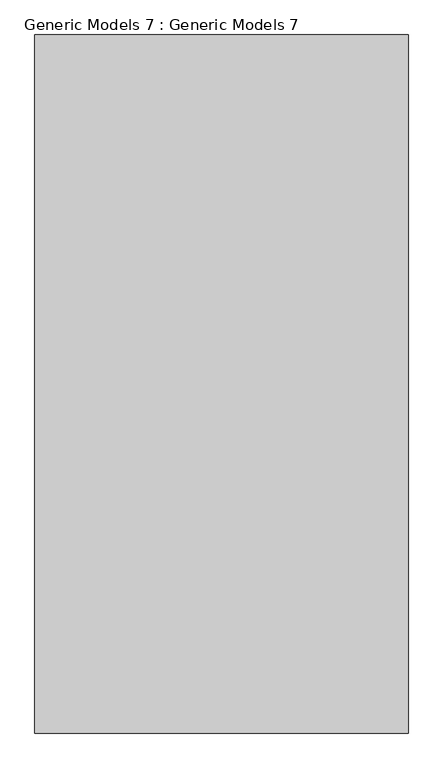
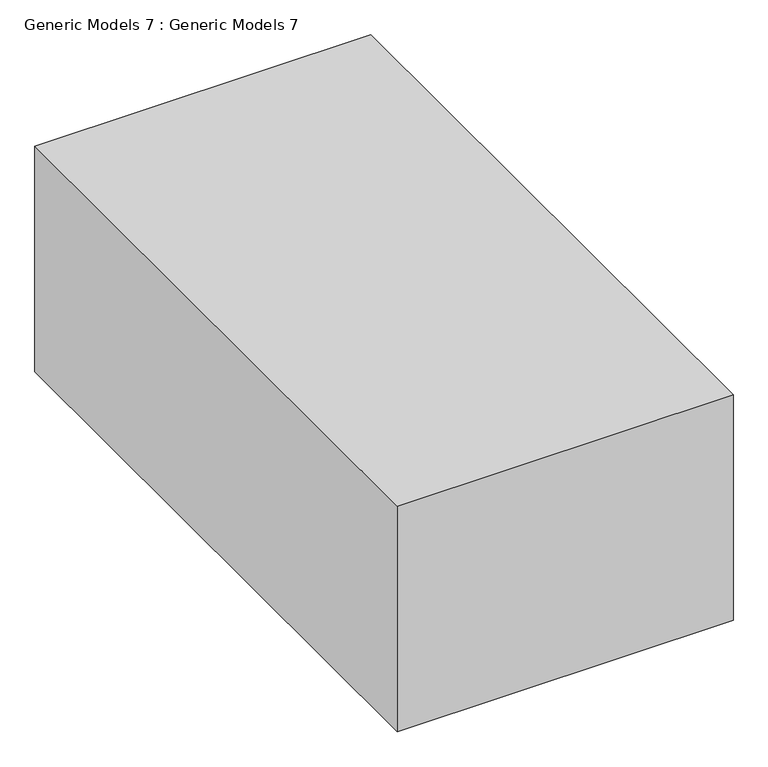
"""IFC4 building model written with IfcOpenShell, lengths in millimetres: proxy geometry, Generic Models 7 : Generic Models 7."""

import ifcopenshell
import ifcopenshell.guid

model = None  # the IFC model being written
_history = None  # IfcOwnerHistory: only IFC2X3 demands one
_inside = {}  # id of a spatial element -> (the spatial element, [elements in it])
_under = {}  # id of a project, library or spatial element -> (it, [spatial elements below it])
_declared = {}  # id of a project -> (the project, [libraries it declares])
_typed = {}  # id of a type object -> (the type object, [elements of that type])
_made_of = {}  # id of a material, layer set ... -> (it, [elements and type objects made of it])


def new_model(schema):
    """Start an empty IFC model of exactly this schema.

    Asked for "IFC4X3", IfcOpenShell would pick the latest addendum, in which some entities
    have other attributes; the version numbers below select the first issue.
    IFC2X3 requires an IfcOwnerHistory on every rooted entity: one is made here for all.
    """
    global model, _history
    if schema == "IFC4X3":
        model = ifcopenshell.file(schema_version=(4, 3, 0, 0))
    else:
        model = ifcopenshell.file(schema=schema)
    _inside.clear()
    _under.clear()
    _declared.clear()
    _typed.clear()
    _made_of.clear()
    _history = None
    if model.schema == "IFC2X3":
        org = make("IfcOrganization", Name="unknown")
        user = make(
            "IfcPersonAndOrganization",
            ThePerson=make("IfcPerson", FamilyName="unknown"),
            TheOrganization=org,
        )
        app = make(
            "IfcApplication",
            ApplicationDeveloper=org,
            Version="unknown",
            ApplicationFullName="unknown",
            ApplicationIdentifier="unknown",
        )
        _history = make(
            "IfcOwnerHistory",
            OwningUser=user,
            OwningApplication=app,
            ChangeAction="ADDED",
            CreationDate=0,
        )
    return model


def make(cls, **values):
    """One entity of the class cls with the attributes given. An attribute that is None is left unset."""
    return model.create_entity(
        cls, **{name: value for name, value in values.items() if value is not None}
    )


def rooted(cls, **values):
    """An entity with a GlobalId (a new one), such as an element, a storey or a relation."""
    return make(cls, GlobalId=ifcopenshell.guid.new(), OwnerHistory=_history, **values)


def si_unit(unit_type, name, prefix=None):
    """IfcSIUnit, for example si_unit("LENGTHUNIT", "METRE", prefix="MILLI")."""
    return make("IfcSIUnit", UnitType=unit_type, Prefix=prefix, Name=name)


def assignment(units):
    """IfcUnitAssignment: the units of a project."""
    return None if units is None else make("IfcUnitAssignment", Units=units)


def point(xyz):
    """IfcCartesianPoint."""
    return None if xyz is None else make("IfcCartesianPoint", Coordinates=xyz)


def direction(xyz):
    """IfcDirection."""
    return None if xyz is None else make("IfcDirection", DirectionRatios=xyz)


def frame(location, z_axis=None, x_axis=None):
    """IfcAxis2Placement3D, a coordinate frame: its origin and axes. An axis left out is left unset."""
    return make(
        "IfcAxis2Placement3D",
        Location=point(location),
        Axis=direction(z_axis),
        RefDirection=direction(x_axis),
    )


def origin():
    """The frame at (0, 0, 0) with its axes left unset."""
    return frame((0.0, 0.0, 0.0))


def origin_with_axes():
    """The frame at (0, 0, 0) with the z axis (0, 0, 1) and the x axis (1, 0, 0) written out."""
    return frame((0.0, 0.0, 0.0), z_axis=(0.0, 0.0, 1.0), x_axis=(1.0, 0.0, 0.0))


def place(relative_to, where):
    """IfcLocalPlacement: puts the frame where relative to a parent placement (None: the world)."""
    return make(
        "IfcLocalPlacement", PlacementRelTo=relative_to, RelativePlacement=where
    )


def context(
    kind, dimensions, precision=None, world=None, true_north=None, identifier=None
):
    """IfcGeometricRepresentationContext, for example the 3D "Model" context."""
    return make(
        "IfcGeometricRepresentationContext",
        ContextIdentifier=identifier,
        ContextType=kind,
        CoordinateSpaceDimension=dimensions,
        Precision=precision,
        WorldCoordinateSystem=world,
        TrueNorth=true_north,
    )


def project(units=None, contexts=None):
    """IfcProject with its units and contexts."""
    return rooted(
        "IfcProject",
        Name="project",
        RepresentationContexts=contexts,
        UnitsInContext=assignment(units),
    )


def spatial(cls, under=None, at=None, **own):
    """A site, building, storey or space (cls), placed at a placement, below another one or the project."""
    s = rooted(cls, ObjectPlacement=at, **own)
    if under is not None:
        _under.setdefault(under.id(), (under, []))[1].append(s)
    return s


def polyline(points):
    """IfcPolyline through the points."""
    return make("IfcPolyline", Points=[point(p) for p in points])


def outline(outer, holes=None, kind="AREA"):
    """IfcArbitraryClosedProfileDef: a profile drawn as a closed curve; with holes, ...WithVoids."""
    if holes is None:
        return make("IfcArbitraryClosedProfileDef", ProfileType=kind, OuterCurve=outer)
    return make(
        "IfcArbitraryProfileDefWithVoids",
        ProfileType=kind,
        OuterCurve=outer,
        InnerCurves=holes,
    )


def extrude(swept, where, along, depth):
    """IfcExtrudedAreaSolid: the profile swept, set in the frame where, extruded along a direction by depth."""
    return make(
        "IfcExtrudedAreaSolid",
        SweptArea=swept,
        Position=where,
        ExtrudedDirection=direction(along),
        Depth=depth,
    )


def shape(context_of_items, identifier, shape_type, items):
    """IfcShapeRepresentation: the items that make up one representation, for example the "Body"."""
    return make(
        "IfcShapeRepresentation",
        ContextOfItems=context_of_items,
        RepresentationIdentifier=identifier,
        RepresentationType=shape_type,
        Items=items,
    )


def source(mapping_origin, context_of_items, identifier, shape_type, items):
    """IfcRepresentationMap: a shape defined once, which mapped items show again and again."""
    return make(
        "IfcRepresentationMap",
        MappingOrigin=mapping_origin,
        MappedRepresentation=shape(context_of_items, identifier, shape_type, items),
    )


def transform(
    local_origin,
    x_axis=None,
    y_axis=None,
    z_axis=None,
    scale=None,
    scale2=None,
    scale3=None,
    uniform=True,
):
    """IfcCartesianTransformationOperator3D, or its non-uniform kind. x_axis, y_axis, z_axis: its Axis1, 2, 3."""
    if uniform:
        return make(
            "IfcCartesianTransformationOperator3D",
            Axis1=direction(x_axis),
            Axis2=direction(y_axis),
            LocalOrigin=point(local_origin),
            Scale=scale,
            Axis3=direction(z_axis),
        )
    return make(
        "IfcCartesianTransformationOperator3DnonUniform",
        Axis1=direction(x_axis),
        Axis2=direction(y_axis),
        LocalOrigin=point(local_origin),
        Scale=scale,
        Axis3=direction(z_axis),
        Scale2=scale2,
        Scale3=scale3,
    )


def mapped(mapping_source, mapping_target):
    """IfcMappedItem: shows the shape of a source again, moved by a transform."""
    return make(
        "IfcMappedItem", MappingSource=mapping_source, MappingTarget=mapping_target
    )


def made_of(thing, what):
    """Note that an element or type object is made of a material, layer set ...; save() writes the relation."""
    if what is not None:
        _made_of.setdefault(what.id(), (what, []))[1].append(thing)
    return thing


def element(
    cls,
    number,
    at=None,
    inside=None,
    cuts=None,
    type_object=None,
    material=None,
    context=None,
    identifier="Body",
    shape_type=None,
    held_by="IfcProductDefinitionShape",
    body=None,
    shapes=None,
    **own,
):
    """One element of the class cls, such as IfcWall. Its Tag is "e" and its number.

    at: its placement. inside: the storey or other place that contains it. cuts: it is an
    opening in that element (IfcRelVoidsElement). A single representation is given by context,
    identifier, shape_type and body (its items); several are given by shapes. held_by: the class
    of the entity that holds the representations. save() writes the other relations.
    """
    e = rooted(cls, Tag="e%d" % number, ObjectPlacement=at, **own)
    if body is not None:
        shapes = [shape(context, identifier, shape_type, body)]
    if shapes is not None:
        e.Representation = make(held_by, Representations=shapes)
    if inside is not None:
        _inside.setdefault(inside.id(), (inside, []))[1].append(e)
    if cuts is not None:
        rooted(
            "IfcRelVoidsElement", RelatingBuildingElement=cuts, RelatedOpeningElement=e
        )
    if type_object is not None:
        _typed.setdefault(type_object.id(), (type_object, []))[1].append(e)
    return made_of(e, material)


def aggregate(whole, parts):
    """IfcRelAggregates: a whole, such as a stair, and the parts it consists of."""
    return rooted("IfcRelAggregates", RelatingObject=whole, RelatedObjects=parts)


def save(model, path):
    """Write the relations noted so far, then the file.

    IfcRelAggregates (storeys below a building ...), IfcRelContainedInSpatialStructure (elements
    in a storey), IfcRelDefinesByType, IfcRelAssociatesMaterial and IfcRelDeclares: one each for
    every whole, place, type object, material and project.
    """
    for whole, parts in _under.values():
        aggregate(whole, parts)
    for where, things in _inside.values():
        rooted(
            "IfcRelContainedInSpatialStructure",
            RelatedElements=things,
            RelatingStructure=where,
        )
    for kind, things in _typed.values():
        rooted("IfcRelDefinesByType", RelatedObjects=things, RelatingType=kind)
    for what, things in _made_of.values():
        rooted("IfcRelAssociatesMaterial", RelatedObjects=things, RelatingMaterial=what)
    for by, libraries in _declared.values():
        rooted("IfcRelDeclares", RelatingContext=by, RelatedDefinitions=libraries)
    model.write(path)


def generic_models_7_generic_models_7_c26100cc(model_context):
    return source(origin(), model_context, "Body", "SweptSolid", [
        extrude(outline(polyline([(15641.5504449, 11616.4728324), (15641.5504449, 9379.9728324), (14444.7171118, 9379.9728324), (14444.7171118, 11616.4728324), (15641.5504449, 11616.4728324)])), origin_with_axes(), (0.0, 0.0, 1.0), 850.0),
    ])


if __name__ == "__main__":
    model = new_model("IFC4")
    model_context = context("Model", 3, world=origin())
    ifc_project = project(units=[si_unit("LENGTHUNIT", "METRE", prefix="MILLI")], contexts=[model_context])
    site = spatial("IfcSite", under=ifc_project)
    building = spatial("IfcBuilding", under=site)
    placement = place(None, origin())
    generic_models_7_generic_models_7_shape = generic_models_7_generic_models_7_c26100cc(model_context)
    element("IfcBuildingElementProxy", 1, Name="Generic Models 7 : Generic Models 7", ObjectType="Generic Models 7 : Generic Models 7", at=placement, inside=building, context=model_context, shape_type="MappedRepresentation", body=[
        mapped(generic_models_7_generic_models_7_shape, transform((0.0, 0.0, 0.0), x_axis=(1.0, 0.0, 0.0), y_axis=(0.0, 1.0, 0.0), z_axis=(0.0, 0.0, 1.0))),
    ])
    save(model, "model.ifc")
